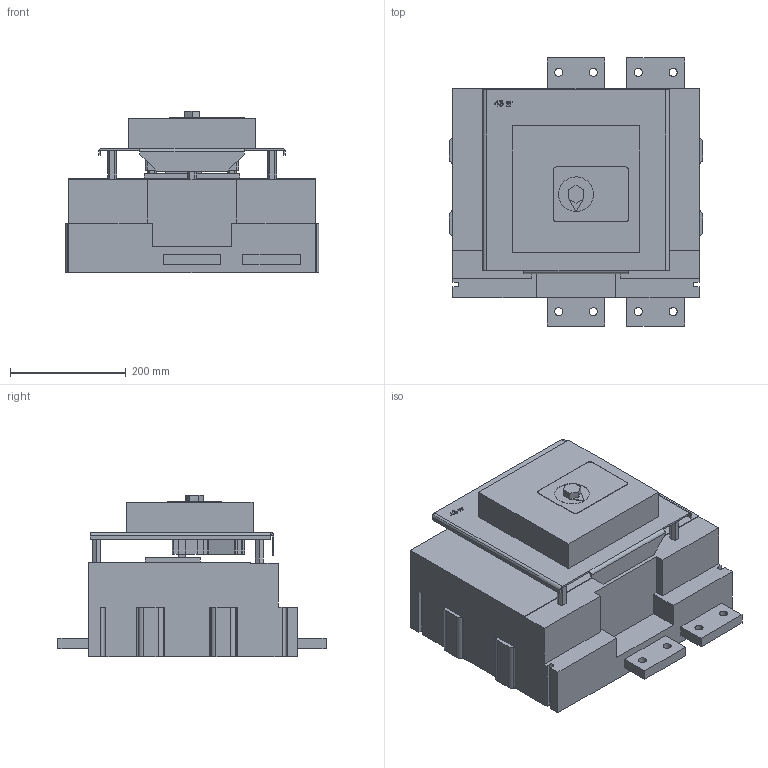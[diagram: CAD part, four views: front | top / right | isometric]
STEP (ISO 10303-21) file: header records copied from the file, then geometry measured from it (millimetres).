
FILE_DESCRIPTION (( 'STEP AP214' ), '1' );
FILE_NAME ('ÂÀ 56-43 DC ñ ýëåêòðîìàãíèòíûì ïðèâîäîì 1600À.STEP', '2023-02-13T05:55:13', ( '' ), ( '' ), 'SwSTEP 2.0', 'SolidWorks 2018', '' );
FILE_SCHEMA (( 'AUTOMOTIVE_DESIGN' ));
Length unit declared in the file: millimetre
Products named in the file (1): ÂÀ 56-43 DC ñ ýëåêòðîìàãíèòíûì ïðèâîäîì 1600À
Bounding box: 438 x 462.5 x 279.3 mm (x, y, z)
Volume: 27467588.8 mm3; surface area: 937429.1 mm2
Topology: 1 solids, 1 shells, 238 faces, 708 edges, 489 vertices
Faces by surface type: plane 190, cylinder 48
Full cylindrical faces by diameter (mm): 14 x8, 60 x1
Entity records: 8307 total; most frequent: CARTESIAN_POINT 1715, ORIENTED_EDGE 1398, DIRECTION 1252, EDGE_CURVE 699, LINE 582, VECTOR 582, VERTEX_POINT 489, AXIS2_PLACEMENT_3D 335
